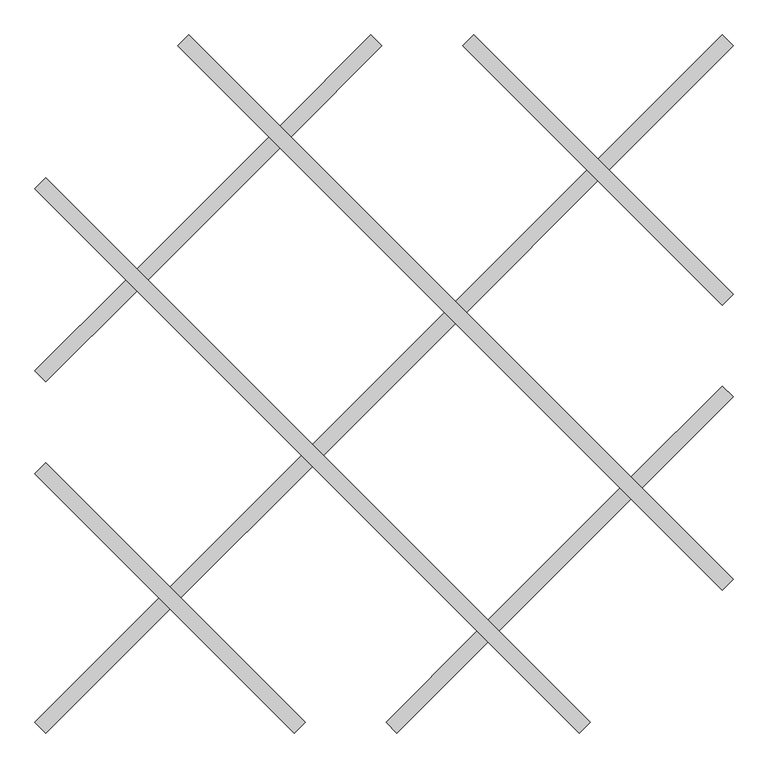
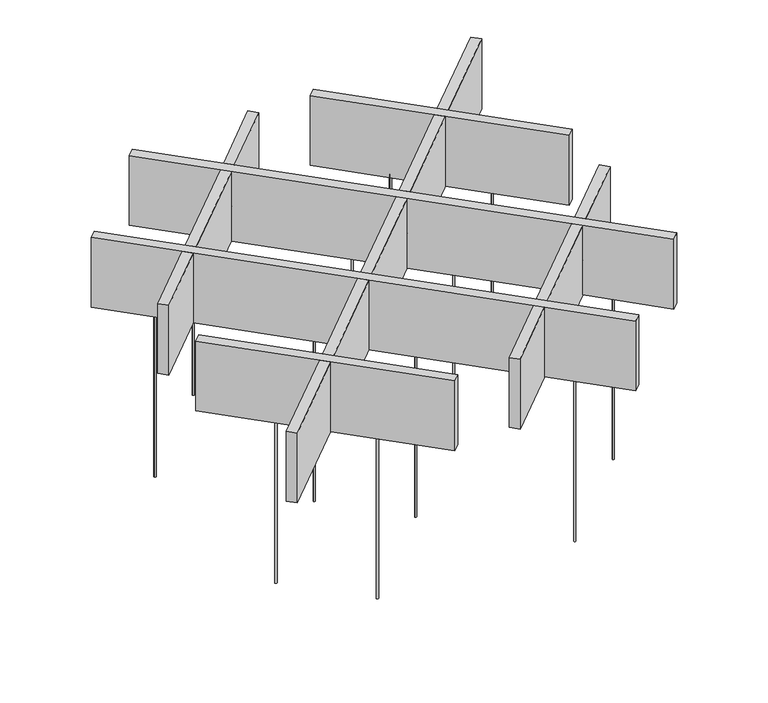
"""IFC4 building model written with IfcOpenShell, lengths in millimetres: proxy geometry, OWA FreeStyle cells : FreeStyle  cells Star."""

import ifcopenshell
import ifcopenshell.guid

model = None  # the IFC model being written
_history = None  # IfcOwnerHistory: only IFC2X3 demands one
_inside = {}  # id of a spatial element -> (the spatial element, [elements in it])
_under = {}  # id of a project, library or spatial element -> (it, [spatial elements below it])
_declared = {}  # id of a project -> (the project, [libraries it declares])
_typed = {}  # id of a type object -> (the type object, [elements of that type])
_made_of = {}  # id of a material, layer set ... -> (it, [elements and type objects made of it])


def new_model(schema):
    """Start an empty IFC model of exactly this schema.

    Asked for "IFC4X3", IfcOpenShell would pick the latest addendum, in which some entities
    have other attributes; the version numbers below select the first issue.
    IFC2X3 requires an IfcOwnerHistory on every rooted entity: one is made here for all.
    """
    global model, _history
    if schema == "IFC4X3":
        model = ifcopenshell.file(schema_version=(4, 3, 0, 0))
    else:
        model = ifcopenshell.file(schema=schema)
    _inside.clear()
    _under.clear()
    _declared.clear()
    _typed.clear()
    _made_of.clear()
    _history = None
    if model.schema == "IFC2X3":
        org = make("IfcOrganization", Name="unknown")
        user = make(
            "IfcPersonAndOrganization",
            ThePerson=make("IfcPerson", FamilyName="unknown"),
            TheOrganization=org,
        )
        app = make(
            "IfcApplication",
            ApplicationDeveloper=org,
            Version="unknown",
            ApplicationFullName="unknown",
            ApplicationIdentifier="unknown",
        )
        _history = make(
            "IfcOwnerHistory",
            OwningUser=user,
            OwningApplication=app,
            ChangeAction="ADDED",
            CreationDate=0,
        )
    return model


def make(cls, **values):
    """One entity of the class cls with the attributes given. An attribute that is None is left unset."""
    return model.create_entity(
        cls, **{name: value for name, value in values.items() if value is not None}
    )


def rooted(cls, **values):
    """An entity with a GlobalId (a new one), such as an element, a storey or a relation."""
    return make(cls, GlobalId=ifcopenshell.guid.new(), OwnerHistory=_history, **values)


def si_unit(unit_type, name, prefix=None):
    """IfcSIUnit, for example si_unit("LENGTHUNIT", "METRE", prefix="MILLI")."""
    return make("IfcSIUnit", UnitType=unit_type, Prefix=prefix, Name=name)


def assignment(units):
    """IfcUnitAssignment: the units of a project."""
    return None if units is None else make("IfcUnitAssignment", Units=units)


def point(xyz):
    """IfcCartesianPoint."""
    return None if xyz is None else make("IfcCartesianPoint", Coordinates=xyz)


def direction(xyz):
    """IfcDirection."""
    return None if xyz is None else make("IfcDirection", DirectionRatios=xyz)


def frame(location, z_axis=None, x_axis=None):
    """IfcAxis2Placement3D, a coordinate frame: its origin and axes. An axis left out is left unset."""
    return make(
        "IfcAxis2Placement3D",
        Location=point(location),
        Axis=direction(z_axis),
        RefDirection=direction(x_axis),
    )


def frame_2d(location, x_axis=None):
    """IfcAxis2Placement2D, a coordinate frame in the plane: its origin and x axis."""
    return make(
        "IfcAxis2Placement2D", Location=point(location), RefDirection=direction(x_axis)
    )


def origin():
    """The frame at (0, 0, 0) with its axes left unset."""
    return frame((0.0, 0.0, 0.0))


def origin_with_axes():
    """The frame at (0, 0, 0) with the z axis (0, 0, 1) and the x axis (1, 0, 0) written out."""
    return frame((0.0, 0.0, 0.0), z_axis=(0.0, 0.0, 1.0), x_axis=(1.0, 0.0, 0.0))


def place(relative_to, where):
    """IfcLocalPlacement: puts the frame where relative to a parent placement (None: the world)."""
    return make(
        "IfcLocalPlacement", PlacementRelTo=relative_to, RelativePlacement=where
    )


def context(
    kind, dimensions, precision=None, world=None, true_north=None, identifier=None
):
    """IfcGeometricRepresentationContext, for example the 3D "Model" context."""
    return make(
        "IfcGeometricRepresentationContext",
        ContextIdentifier=identifier,
        ContextType=kind,
        CoordinateSpaceDimension=dimensions,
        Precision=precision,
        WorldCoordinateSystem=world,
        TrueNorth=true_north,
    )


def project(units=None, contexts=None):
    """IfcProject with its units and contexts."""
    return rooted(
        "IfcProject",
        Name="project",
        RepresentationContexts=contexts,
        UnitsInContext=assignment(units),
    )


def spatial(cls, under=None, at=None, **own):
    """A site, building, storey or space (cls), placed at a placement, below another one or the project."""
    s = rooted(cls, ObjectPlacement=at, **own)
    if under is not None:
        _under.setdefault(under.id(), (under, []))[1].append(s)
    return s


def polyline(points):
    """IfcPolyline through the points."""
    return make("IfcPolyline", Points=[point(p) for p in points])


def circle_curve(where, radius):
    """IfcCircle in the frame where."""
    return make("IfcCircle", Position=where, Radius=radius)


def trimmed(basis, trim1, trim2, sense, master):
    """IfcTrimmedCurve: the piece of a basis curve between two trims."""
    return make(
        "IfcTrimmedCurve",
        BasisCurve=basis,
        Trim1=trim1,
        Trim2=trim2,
        SenseAgreement=sense,
        MasterRepresentation=master,
    )


def segment(curve, same_sense, transition):
    """IfcCompositeCurveSegment."""
    return make(
        "IfcCompositeCurveSegment",
        Transition=transition,
        SameSense=same_sense,
        ParentCurve=curve,
    )


def composite_curve(segments, self_intersect=None):
    """IfcCompositeCurve: segments joined end to end."""
    return make("IfcCompositeCurve", Segments=segments, SelfIntersect=self_intersect)


def outline(outer, holes=None, kind="AREA"):
    """IfcArbitraryClosedProfileDef: a profile drawn as a closed curve; with holes, ...WithVoids."""
    if holes is None:
        return make("IfcArbitraryClosedProfileDef", ProfileType=kind, OuterCurve=outer)
    return make(
        "IfcArbitraryProfileDefWithVoids",
        ProfileType=kind,
        OuterCurve=outer,
        InnerCurves=holes,
    )


def extrude(swept, where, along, depth):
    """IfcExtrudedAreaSolid: the profile swept, set in the frame where, extruded along a direction by depth."""
    return make(
        "IfcExtrudedAreaSolid",
        SweptArea=swept,
        Position=where,
        ExtrudedDirection=direction(along),
        Depth=depth,
    )


def shape(context_of_items, identifier, shape_type, items):
    """IfcShapeRepresentation: the items that make up one representation, for example the "Body"."""
    return make(
        "IfcShapeRepresentation",
        ContextOfItems=context_of_items,
        RepresentationIdentifier=identifier,
        RepresentationType=shape_type,
        Items=items,
    )


def source(mapping_origin, context_of_items, identifier, shape_type, items):
    """IfcRepresentationMap: a shape defined once, which mapped items show again and again."""
    return make(
        "IfcRepresentationMap",
        MappingOrigin=mapping_origin,
        MappedRepresentation=shape(context_of_items, identifier, shape_type, items),
    )


def transform(
    local_origin,
    x_axis=None,
    y_axis=None,
    z_axis=None,
    scale=None,
    scale2=None,
    scale3=None,
    uniform=True,
):
    """IfcCartesianTransformationOperator3D, or its non-uniform kind. x_axis, y_axis, z_axis: its Axis1, 2, 3."""
    if uniform:
        return make(
            "IfcCartesianTransformationOperator3D",
            Axis1=direction(x_axis),
            Axis2=direction(y_axis),
            LocalOrigin=point(local_origin),
            Scale=scale,
            Axis3=direction(z_axis),
        )
    return make(
        "IfcCartesianTransformationOperator3DnonUniform",
        Axis1=direction(x_axis),
        Axis2=direction(y_axis),
        LocalOrigin=point(local_origin),
        Scale=scale,
        Axis3=direction(z_axis),
        Scale2=scale2,
        Scale3=scale3,
    )


def mapped(mapping_source, mapping_target):
    """IfcMappedItem: shows the shape of a source again, moved by a transform."""
    return make(
        "IfcMappedItem", MappingSource=mapping_source, MappingTarget=mapping_target
    )


def made_of(thing, what):
    """Note that an element or type object is made of a material, layer set ...; save() writes the relation."""
    if what is not None:
        _made_of.setdefault(what.id(), (what, []))[1].append(thing)
    return thing


def element(
    cls,
    number,
    at=None,
    inside=None,
    cuts=None,
    type_object=None,
    material=None,
    context=None,
    identifier="Body",
    shape_type=None,
    held_by="IfcProductDefinitionShape",
    body=None,
    shapes=None,
    **own,
):
    """One element of the class cls, such as IfcWall. Its Tag is "e" and its number.

    at: its placement. inside: the storey or other place that contains it. cuts: it is an
    opening in that element (IfcRelVoidsElement). A single representation is given by context,
    identifier, shape_type and body (its items); several are given by shapes. held_by: the class
    of the entity that holds the representations. save() writes the other relations.
    """
    e = rooted(cls, Tag="e%d" % number, ObjectPlacement=at, **own)
    if body is not None:
        shapes = [shape(context, identifier, shape_type, body)]
    if shapes is not None:
        e.Representation = make(held_by, Representations=shapes)
    if inside is not None:
        _inside.setdefault(inside.id(), (inside, []))[1].append(e)
    if cuts is not None:
        rooted(
            "IfcRelVoidsElement", RelatingBuildingElement=cuts, RelatedOpeningElement=e
        )
    if type_object is not None:
        _typed.setdefault(type_object.id(), (type_object, []))[1].append(e)
    return made_of(e, material)


def aggregate(whole, parts):
    """IfcRelAggregates: a whole, such as a stair, and the parts it consists of."""
    return rooted("IfcRelAggregates", RelatingObject=whole, RelatedObjects=parts)


def save(model, path):
    """Write the relations noted so far, then the file.

    IfcRelAggregates (storeys below a building ...), IfcRelContainedInSpatialStructure (elements
    in a storey), IfcRelDefinesByType, IfcRelAssociatesMaterial and IfcRelDeclares: one each for
    every whole, place, type object, material and project.
    """
    for whole, parts in _under.values():
        aggregate(whole, parts)
    for where, things in _inside.values():
        rooted(
            "IfcRelContainedInSpatialStructure",
            RelatedElements=things,
            RelatingStructure=where,
        )
    for kind, things in _typed.values():
        rooted("IfcRelDefinesByType", RelatedObjects=things, RelatingType=kind)
    for what, things in _made_of.values():
        rooted("IfcRelAssociatesMaterial", RelatedObjects=things, RelatingMaterial=what)
    for by, libraries in _declared.values():
        rooted("IfcRelDeclares", RelatingContext=by, RelatedDefinitions=libraries)
    model.write(path)


def specialty_equipment_5c3a35cd(model_context):
    return source(origin(), model_context, "Body", "SweptSolid", [
        extrude(outline(polyline([(-1164.0579534, 357.0889245), (-1161.1712021, 362.0889245), (-1155.3976994, 362.0889245), (-1152.510948, 357.0889245), (-1155.3976994, 352.0889245), (-1161.1712021, 352.0889245), (-1164.0579534, 357.0889245)]), holes=[composite_curve([segment(trimmed(circle_curve(frame_2d((-1158.2844507, 357.0889245)), 3.85), [point((-1162.1344507, 357.0889245))], [point((-1154.4344507, 357.0889245))], True, "CARTESIAN"), True, "CONTINUOUS"), segment(trimmed(circle_curve(frame_2d((-1158.2844507, 357.0889245)), 3.85), [point((-1154.4344507, 357.0889245))], [point((-1162.1344507, 357.0889245))], True, "CARTESIAN"), True, "CONTINUOUS")], self_intersect=False)]), frame((0.0, 0.0, 695.0), z_axis=(0.0, 0.0, 1.0), x_axis=(1.0, 0.0, 0.0)), (0.0, 0.0, 1.0), 5.0),
        extrude(outline(composite_curve([segment(trimmed(circle_curve(frame_2d((-1158.2844507, 357.0889245)), 3.85), [point((-1162.1344507, 357.0889245))], [point((-1154.4344507, 357.0889245))], False, "CARTESIAN"), True, "CONTINUOUS"), segment(trimmed(circle_curve(frame_2d((-1158.2844507, 357.0889245)), 3.85), [point((-1154.4344507, 357.0889245))], [point((-1162.1344507, 357.0889245))], False, "CARTESIAN"), True, "CONTINUOUS")], self_intersect=False)), origin_with_axes(), (0.0, 0.0, 1.0), 700.0),
        extrude(outline(polyline([(-82.1845782, -724.7844507), (-79.2978268, -719.7844507), (-73.5243242, -719.7844507), (-70.6375728, -724.7844507), (-73.5243242, -729.7844507), (-79.2978268, -729.7844507), (-82.1845782, -724.7844507)]), holes=[composite_curve([segment(trimmed(circle_curve(frame_2d((-76.4110755, -724.7844507)), 3.85), [point((-80.2610755, -724.7844507))], [point((-72.5610755, -724.7844507))], True, "CARTESIAN"), True, "CONTINUOUS"), segment(trimmed(circle_curve(frame_2d((-76.4110755, -724.7844507)), 3.85), [point((-72.5610755, -724.7844507))], [point((-80.2610755, -724.7844507))], True, "CARTESIAN"), True, "CONTINUOUS")], self_intersect=False)]), frame((0.0, 0.0, 695.0), z_axis=(0.0, 0.0, 1.0), x_axis=(1.0, 0.0, 0.0)), (0.0, 0.0, 1.0), 5.0),
        extrude(outline(composite_curve([segment(trimmed(circle_curve(frame_2d((-76.4110755, -724.7844507)), 3.85), [point((-80.2610755, -724.7844507))], [point((-72.5610755, -724.7844507))], False, "CARTESIAN"), True, "CONTINUOUS"), segment(trimmed(circle_curve(frame_2d((-76.4110755, -724.7844507)), 3.85), [point((-72.5610755, -724.7844507))], [point((-80.2610755, -724.7844507))], False, "CARTESIAN"), True, "CONTINUOUS")], self_intersect=False)), origin_with_axes(), (0.0, 0.0, 1.0), 700.0),
        extrude(outline(polyline([(-1121.5520872, -420.8079941), (-1118.6653359, -415.8079941), (-1112.8918332, -415.8079941), (-1110.0050818, -420.8079941), (-1112.8918332, -425.8079941), (-1118.6653359, -425.8079941), (-1121.5520872, -420.8079941)]), holes=[composite_curve([segment(trimmed(circle_curve(frame_2d((-1115.7785845, -420.8079941)), 3.85), [point((-1119.6285845, -420.8079941))], [point((-1111.9285845, -420.8079941))], True, "CARTESIAN"), True, "CONTINUOUS"), segment(trimmed(circle_curve(frame_2d((-1115.7785845, -420.8079941)), 3.85), [point((-1111.9285845, -420.8079941))], [point((-1119.6285845, -420.8079941))], True, "CARTESIAN"), True, "CONTINUOUS")], self_intersect=False)]), frame((0.0, 0.0, 695.0), z_axis=(0.0, 0.0, 1.0), x_axis=(1.0, 0.0, 0.0)), (0.0, 0.0, 1.0), 5.0),
        extrude(outline(composite_curve([segment(trimmed(circle_curve(frame_2d((-1115.7785845, -420.8079941)), 3.85), [point((-1119.6285845, -420.8079941))], [point((-1111.9285845, -420.8079941))], False, "CARTESIAN"), True, "CONTINUOUS"), segment(trimmed(circle_curve(frame_2d((-1115.7785845, -420.8079941)), 3.85), [point((-1111.9285845, -420.8079941))], [point((-1119.6285845, -420.8079941))], False, "CARTESIAN"), True, "CONTINUOUS")], self_intersect=False)), origin_with_axes(), (0.0, 0.0, 1.0), 700.0),
        extrude(outline(polyline([(-860.0020375, -682.3580438), (-857.1152862, -677.3580438), (-851.3417835, -677.3580438), (-848.4550321, -682.3580438), (-851.3417835, -687.3580438), (-857.1152862, -687.3580438), (-860.0020375, -682.3580438)]), holes=[composite_curve([segment(trimmed(circle_curve(frame_2d((-854.2285348, -682.3580438)), 3.85), [point((-858.0785348, -682.3580438))], [point((-850.3785348, -682.3580438))], True, "CARTESIAN"), True, "CONTINUOUS"), segment(trimmed(circle_curve(frame_2d((-854.2285348, -682.3580438)), 3.85), [point((-850.3785348, -682.3580438))], [point((-858.0785348, -682.3580438))], True, "CARTESIAN"), True, "CONTINUOUS")], self_intersect=False)]), frame((0.0, 0.0, 695.0), z_axis=(0.0, 0.0, 1.0), x_axis=(1.0, 0.0, 0.0)), (0.0, 0.0, 1.0), 5.0),
        extrude(outline(composite_curve([segment(trimmed(circle_curve(frame_2d((-854.2285348, -682.3580438)), 3.85), [point((-858.0785348, -682.3580438))], [point((-850.3785348, -682.3580438))], False, "CARTESIAN"), True, "CONTINUOUS"), segment(trimmed(circle_curve(frame_2d((-854.2285348, -682.3580438)), 3.85), [point((-850.3785348, -682.3580438))], [point((-858.0785348, -682.3580438))], False, "CARTESIAN"), True, "CONTINUOUS")], self_intersect=False)), origin_with_axes(), (0.0, 0.0, 1.0), 700.0),
        extrude(outline(polyline([(243.0845412, 420.7285348), (245.9712925, 425.7285348), (251.7447952, 425.7285348), (254.6315465, 420.7285348), (251.7447952, 415.7285348), (245.9712925, 415.7285348), (243.0845412, 420.7285348)]), holes=[composite_curve([segment(trimmed(circle_curve(frame_2d((248.8580438, 420.7285348)), 3.85), [point((245.0080438, 420.7285348))], [point((252.7080438, 420.7285348))], True, "CARTESIAN"), True, "CONTINUOUS"), segment(trimmed(circle_curve(frame_2d((248.8580438, 420.7285348)), 3.85), [point((252.7080438, 420.7285348))], [point((245.0080438, 420.7285348))], True, "CARTESIAN"), True, "CONTINUOUS")], self_intersect=False)]), frame((0.0, 0.0, 695.0), z_axis=(0.0, 0.0, 1.0), x_axis=(1.0, 0.0, 0.0)), (0.0, 0.0, 1.0), 5.0),
        extrude(outline(composite_curve([segment(trimmed(circle_curve(frame_2d((248.8580438, 420.7285348)), 3.85), [point((245.0080438, 420.7285348))], [point((252.7080438, 420.7285348))], False, "CARTESIAN"), True, "CONTINUOUS"), segment(trimmed(circle_curve(frame_2d((248.8580438, 420.7285348)), 3.85), [point((252.7080438, 420.7285348))], [point((245.0080438, 420.7285348))], False, "CARTESIAN"), True, "CONTINUOUS")], self_intersect=False)), origin_with_axes(), (0.0, 0.0, 1.0), 700.0),
        extrude(outline(polyline([(-18.5449679, 682.3580438), (-15.6582165, 687.3580438), (-9.8847138, 687.3580438), (-6.9979625, 682.3580438), (-9.8847138, 677.3580438), (-15.6582165, 677.3580438), (-18.5449679, 682.3580438)]), holes=[composite_curve([segment(trimmed(circle_curve(frame_2d((-12.7714652, 682.3580438)), 3.85), [point((-16.6214652, 682.3580438))], [point((-8.9214652, 682.3580438))], True, "CARTESIAN"), True, "CONTINUOUS"), segment(trimmed(circle_curve(frame_2d((-12.7714652, 682.3580438)), 3.85), [point((-8.9214652, 682.3580438))], [point((-16.6214652, 682.3580438))], True, "CARTESIAN"), True, "CONTINUOUS")], self_intersect=False)]), frame((0.0, 0.0, 695.0), z_axis=(0.0, 0.0, 1.0), x_axis=(1.0, 0.0, 0.0)), (0.0, 0.0, 1.0), 5.0),
        extrude(outline(composite_curve([segment(trimmed(circle_curve(frame_2d((-12.7714652, 682.3580438)), 3.85), [point((-16.6214652, 682.3580438))], [point((-8.9214652, 682.3580438))], False, "CARTESIAN"), True, "CONTINUOUS"), segment(trimmed(circle_curve(frame_2d((-12.7714652, 682.3580438)), 3.85), [point((-8.9214652, 682.3580438))], [point((-16.6214652, 682.3580438))], False, "CARTESIAN"), True, "CONTINUOUS")], self_intersect=False)), origin_with_axes(), (0.0, 0.0, 1.0), 700.0),
        extrude(outline(polyline([(-124.6109851, 53.0467536), (-121.7242337, 58.0467536), (-115.950731, 58.0467536), (-113.0639797, 53.0467536), (-115.950731, 48.0467536), (-121.7242337, 48.0467536), (-124.6109851, 53.0467536)]), holes=[composite_curve([segment(trimmed(circle_curve(frame_2d((-118.8374824, 53.0467536)), 3.85), [point((-122.6874824, 53.0467536))], [point((-114.9874824, 53.0467536))], True, "CARTESIAN"), True, "CONTINUOUS"), segment(trimmed(circle_curve(frame_2d((-118.8374824, 53.0467536)), 3.85), [point((-114.9874824, 53.0467536))], [point((-122.6874824, 53.0467536))], True, "CARTESIAN"), True, "CONTINUOUS")], self_intersect=False)]), frame((0.0, 0.0, 695.0), z_axis=(0.0, 0.0, 1.0), x_axis=(1.0, 0.0, 0.0)), (0.0, 0.0, 1.0), 5.0),
        extrude(outline(composite_curve([segment(trimmed(circle_curve(frame_2d((-118.8374824, 53.0467536)), 3.85), [point((-122.6874824, 53.0467536))], [point((-114.9874824, 53.0467536))], False, "CARTESIAN"), True, "CONTINUOUS"), segment(trimmed(circle_curve(frame_2d((-118.8374824, 53.0467536)), 3.85), [point((-114.9874824, 53.0467536))], [point((-122.6874824, 53.0467536))], False, "CARTESIAN"), True, "CONTINUOUS")], self_intersect=False)), origin_with_axes(), (0.0, 0.0, 1.0), 700.0),
        extrude(outline(polyline([(-386.2416523, 314.6774208), (-383.354901, 319.6774208), (-377.5813983, 319.6774208), (-374.6946469, 314.6774208), (-377.5813983, 309.6774208), (-383.354901, 309.6774208), (-386.2416523, 314.6774208)]), holes=[composite_curve([segment(trimmed(circle_curve(frame_2d((-380.4681496, 314.6774208)), 3.85), [point((-384.3181496, 314.6774208))], [point((-376.6181496, 314.6774208))], True, "CARTESIAN"), True, "CONTINUOUS"), segment(trimmed(circle_curve(frame_2d((-380.4681496, 314.6774208)), 3.85), [point((-376.6181496, 314.6774208))], [point((-384.3181496, 314.6774208))], True, "CARTESIAN"), True, "CONTINUOUS")], self_intersect=False)]), frame((0.0, 0.0, 695.0), z_axis=(0.0, 0.0, 1.0), x_axis=(1.0, 0.0, 0.0)), (0.0, 0.0, 1.0), 5.0),
        extrude(outline(composite_curve([segment(trimmed(circle_curve(frame_2d((-380.4681496, 314.6774208)), 3.85), [point((-384.3181496, 314.6774208))], [point((-376.6181496, 314.6774208))], False, "CARTESIAN"), True, "CONTINUOUS"), segment(trimmed(circle_curve(frame_2d((-380.4681496, 314.6774208)), 3.85), [point((-376.6181496, 314.6774208))], [point((-384.3181496, 314.6774208))], False, "CARTESIAN"), True, "CONTINUOUS")], self_intersect=False)), origin_with_axes(), (0.0, 0.0, 1.0), 700.0),
        extrude(outline(polyline([(-753.944051, -53.0249779), (-751.0572997, -48.0249779), (-745.283797, -48.0249779), (-742.3970456, -53.0249779), (-745.283797, -58.0249779), (-751.0572997, -58.0249779), (-753.944051, -53.0249779)]), holes=[composite_curve([segment(trimmed(circle_curve(frame_2d((-748.1705483, -53.0249779)), 3.85), [point((-752.0205483, -53.0249779))], [point((-744.3205483, -53.0249779))], True, "CARTESIAN"), True, "CONTINUOUS"), segment(trimmed(circle_curve(frame_2d((-748.1705483, -53.0249779)), 3.85), [point((-744.3205483, -53.0249779))], [point((-752.0205483, -53.0249779))], True, "CARTESIAN"), True, "CONTINUOUS")], self_intersect=False)]), frame((0.0, 0.0, 695.0), z_axis=(0.0, 0.0, 1.0), x_axis=(1.0, 0.0, 0.0)), (0.0, 0.0, 1.0), 5.0),
        extrude(outline(composite_curve([segment(trimmed(circle_curve(frame_2d((-748.1705483, -53.0249779)), 3.85), [point((-752.0205483, -53.0249779))], [point((-744.3205483, -53.0249779))], False, "CARTESIAN"), True, "CONTINUOUS"), segment(trimmed(circle_curve(frame_2d((-748.1705483, -53.0249779)), 3.85), [point((-744.3205483, -53.0249779))], [point((-752.0205483, -53.0249779))], False, "CARTESIAN"), True, "CONTINUOUS")], self_intersect=False)), origin_with_axes(), (0.0, 0.0, 1.0), 700.0),
        extrude(outline(polyline([(-796.3624272, 724.7844507), (-793.4756758, 729.7844507), (-787.7021732, 729.7844507), (-784.8154218, 724.7844507), (-787.7021732, 719.7844507), (-793.4756758, 719.7844507), (-796.3624272, 724.7844507)]), holes=[composite_curve([segment(trimmed(circle_curve(frame_2d((-790.5889245, 724.7844507)), 3.85), [point((-794.4389245, 724.7844507))], [point((-786.7389245, 724.7844507))], True, "CARTESIAN"), True, "CONTINUOUS"), segment(trimmed(circle_curve(frame_2d((-790.5889245, 724.7844507)), 3.85), [point((-786.7389245, 724.7844507))], [point((-794.4389245, 724.7844507))], True, "CARTESIAN"), True, "CONTINUOUS")], self_intersect=False)]), frame((0.0, 0.0, 695.0), z_axis=(0.0, 0.0, 1.0), x_axis=(1.0, 0.0, 0.0)), (0.0, 0.0, 1.0), 5.0),
        extrude(outline(composite_curve([segment(trimmed(circle_curve(frame_2d((-790.5889245, 724.7844507)), 3.85), [point((-794.4389245, 724.7844507))], [point((-786.7389245, 724.7844507))], False, "CARTESIAN"), True, "CONTINUOUS"), segment(trimmed(circle_curve(frame_2d((-790.5889245, 724.7844507)), 3.85), [point((-786.7389245, 724.7844507))], [point((-794.4389245, 724.7844507))], False, "CARTESIAN"), True, "CONTINUOUS")], self_intersect=False)), origin_with_axes(), (0.0, 0.0, 1.0), 700.0),
        extrude(outline(polyline([(298.3601789, -356.2310601), (295.4734276, -361.2310601), (289.6999249, -361.2310601), (286.8131735, -356.2310601), (289.6999249, -351.2310601), (295.4734276, -351.2310601), (298.3601789, -356.2310601)]), holes=[composite_curve([segment(trimmed(circle_curve(frame_2d((292.5866762, -356.2310601)), 3.85), [point((296.4366762, -356.2310601))], [point((288.7366762, -356.2310601))], True, "CARTESIAN"), True, "CONTINUOUS"), segment(trimmed(circle_curve(frame_2d((292.5866762, -356.2310601)), 3.85), [point((288.7366762, -356.2310601))], [point((296.4366762, -356.2310601))], True, "CARTESIAN"), True, "CONTINUOUS")], self_intersect=False)]), frame((0.0, 0.0, 695.0), z_axis=(0.0, 0.0, 1.0), x_axis=(1.0, 0.0, 0.0)), (0.0, 0.0, 1.0), 5.0),
        extrude(outline(composite_curve([segment(trimmed(circle_curve(frame_2d((292.5866762, -356.2310601)), 3.85), [point((296.4366762, -356.2310601))], [point((288.7366762, -356.2310601))], False, "CARTESIAN"), True, "CONTINUOUS"), segment(trimmed(circle_curve(frame_2d((292.5866762, -356.2310601)), 3.85), [point((288.7366762, -356.2310601))], [point((296.4366762, -356.2310601))], False, "CARTESIAN"), True, "CONTINUOUS")], self_intersect=False)), origin_with_axes(), (0.0, 0.0, 1.0), 700.0),
        extrude(outline(polyline([(-492.3065113, -314.6625176), (-489.4197599, -309.6625176), (-483.6462572, -309.6625176), (-480.7595059, -314.6625176), (-483.6462572, -319.6625176), (-489.4197599, -319.6625176), (-492.3065113, -314.6625176)]), holes=[composite_curve([segment(trimmed(circle_curve(frame_2d((-486.5330086, -314.6625176)), 3.85), [point((-490.3830086, -314.6625176))], [point((-482.6830086, -314.6625176))], True, "CARTESIAN"), True, "CONTINUOUS"), segment(trimmed(circle_curve(frame_2d((-486.5330086, -314.6625176)), 3.85), [point((-482.6830086, -314.6625176))], [point((-490.3830086, -314.6625176))], True, "CARTESIAN"), True, "CONTINUOUS")], self_intersect=False)]), frame((0.0, 0.0, 695.0), z_axis=(0.0, 0.0, 1.0), x_axis=(1.0, 0.0, 0.0)), (0.0, 0.0, 1.0), 5.0),
        extrude(outline(composite_curve([segment(trimmed(circle_curve(frame_2d((-486.5330086, -314.6625176)), 3.85), [point((-490.3830086, -314.6625176))], [point((-482.6830086, -314.6625176))], False, "CARTESIAN"), True, "CONTINUOUS"), segment(trimmed(circle_curve(frame_2d((-486.5330086, -314.6625176)), 3.85), [point((-482.6830086, -314.6625176))], [point((-490.3830086, -314.6625176))], False, "CARTESIAN"), True, "CONTINUOUS")], self_intersect=False)), origin_with_axes(), (0.0, 0.0, 1.0), 700.0),
        extrude(outline(polyline([(150.0, 0.0), (150.0, 39.9999999), (0.0, 39.9999999), (0.0, 492.5), (300.0, 492.5), (300.0, -452.5), (0.0, -452.5), (0.0, 0.0), (150.0, 0.0)])), frame((89.7590181, 551.5432893, 700.0), z_axis=(0.7071067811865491, 0.707106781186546, 0.0), x_axis=(0.0, 0.0, 1.0)), (0.0, 0.0, 1.0), 40.0),
        extrude(outline(polyline([(150.0, 0.0), (150.0, 40.0000001), (0.0, 40.0000001), (0.0, 492.5000001), (300.0, 492.5000001), (300.0, -452.5), (0.0, -452.5), (0.0, 0.0), (150.0, 0.0)])), frame((-1013.3275606, -551.5432893, 700.0), z_axis=(0.7071067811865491, 0.707106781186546, 0.0), x_axis=(0.0, 0.0, 1.0)), (0.0, 0.0, 1.0), 40.0),
        extrude(outline(polyline([(300.0, 0.0), (300.0, -332.5), (150.0, -332.5), (150.0, -372.5), (300.0, -372.5), (300.0, -972.5), (150.0, -972.5), (150.0, -1012.5000001), (300.0, -1012.5000001), (300.0, -1612.5000001), (150.0, -1612.5000001), (150.0, -1652.5000001), (300.0, -1652.5000001), (300.0, -1985.0000001), (0.0, -1985.0000001), (0.0, 0.0), (300.0, 0.0)])), frame((-1333.2933791, 503.8135816, 1000.0), z_axis=(0.7071067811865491, 0.707106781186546, 0.0), x_axis=(0.0, 0.0, -1.0)), (0.0, 0.0, 1.0), 40.0),
        extrude(outline(polyline([(300.0, 0.0), (300.0, -332.4999999), (150.0, -332.4999999), (150.0, -372.4999999), (300.0, -372.4999999), (300.0, -972.5), (150.0, -972.5), (150.0, -1012.4999999), (300.0, -1012.4999999), (300.0, -1612.5), (150.0, -1612.5), (150.0, -1652.5), (300.0, -1652.5), (300.0, -1984.9999999), (0.0, -1984.9999999), (0.0, 0.0), (300.0, 0.0)])), frame((-965.5978528, 871.5091078, 1000.0), z_axis=(0.7071067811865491, 0.707106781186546, 0.0), x_axis=(0.0, 0.0, -1.0)), (0.0, 0.0, 1.0), 40.0),
        extrude(outline(polyline([(2505.0, 0.0), (2505.0, -300.0), (2052.5, -300.0), (2052.5, -150.0), (2012.5, -150.0), (2012.5, -300.0), (1532.5, -300.0), (1532.5, -150.0), (1492.5, -150.0), (1492.5, -300.0), (1012.5, -300.0), (1012.5, -150.0), (972.5, -150.0), (972.5, -300.0), (492.5, -300.0), (492.5, -150.0), (452.5, -150.0), (452.5, -300.0), (0.0, -300.0), (0.0, 0.0), (2505.0, 0.0)])), frame((-1305.0091078, -899.7933791, 700.0), z_axis=(-0.7071067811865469, 0.7071067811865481, 0.0), x_axis=(0.7071067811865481, 0.7071067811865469, 0.0)), (0.0, 0.0, 1.0), 40.0),
        extrude(outline(polyline([(1225.0000001, 0.0), (1225.0000001, -300.0), (892.5, -300.0), (892.5, -150.0), (852.5000001, -150.0), (852.5000001, -300.0), (372.5, -300.0), (372.5, -150.0), (332.5000001, -150.0), (332.5000001, -300.0), (0.0, -300.0), (0.0, 0.0), (1225.0000001, 0.0)])), frame((-399.9124279, -899.7933791, 700.0), z_axis=(-0.7071067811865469, 0.7071067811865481, 0.0), x_axis=(0.7071067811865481, 0.7071067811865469, 0.0)), (0.0, 0.0, 1.0), 40.0),
        extrude(outline(polyline([(1224.9999999, 0.0), (1224.9999999, -300.0), (892.5, -300.0), (892.5, -150.0), (852.4999999, -150.0), (852.4999999, -300.0), (372.5, -300.0), (372.5, -150.0), (332.4999999, -150.0), (332.4999999, -300.0), (0.0, -300.0), (0.0, 0.0), (1224.9999999, 0.0)])), frame((-1305.0091078, 5.3033009, 700.0), z_axis=(-0.7071067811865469, 0.7071067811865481, 0.0), x_axis=(0.7071067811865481, 0.7071067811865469, 0.0)), (0.0, 0.0, 1.0), 40.0),
    ])


if __name__ == "__main__":
    model = new_model("IFC4")
    model_context = context("Model", 3, world=origin())
    ifc_project = project(units=[si_unit("LENGTHUNIT", "METRE", prefix="MILLI")], contexts=[model_context])
    site = spatial("IfcSite", under=ifc_project)
    building = spatial("IfcBuilding", under=site)
    placement = place(None, origin())
    specialty_equipment_shape = specialty_equipment_5c3a35cd(model_context)
    element("IfcBuildingElementProxy", 1, Name="OWA FreeStyle cells : FreeStyle  cells Star", ObjectType="OWA FreeStyle cells : FreeStyle  cells Star", at=placement, inside=building, context=model_context, shape_type="MappedRepresentation", body=[
        mapped(specialty_equipment_shape, transform((0.0, 0.0, 0.0), x_axis=(1.0, 0.0, 0.0), y_axis=(0.0, 1.0, 0.0), z_axis=(0.0, 0.0, 1.0))),
    ])
    save(model, "model.ifc")
